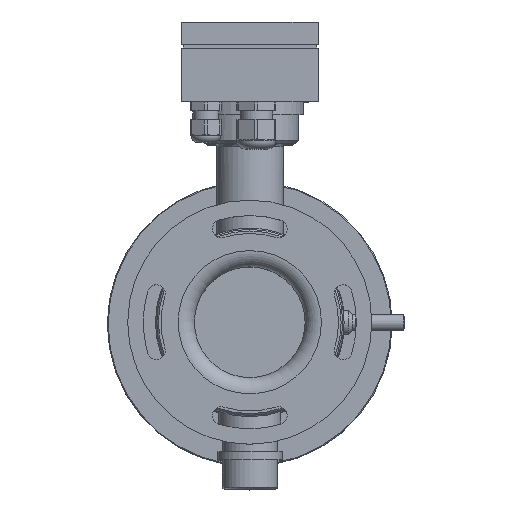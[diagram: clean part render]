
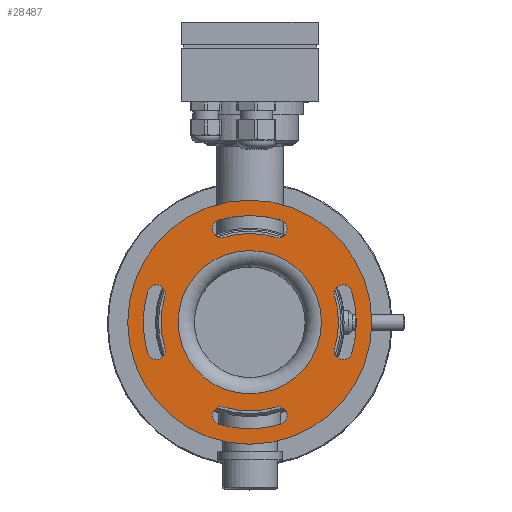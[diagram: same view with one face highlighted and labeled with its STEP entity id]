
A CAD part, top view. The second image highlights one B-rep face of the part: STEP entity #28487.
In plain terms, the highlighted planar face has unit normal (0, 0, 1).
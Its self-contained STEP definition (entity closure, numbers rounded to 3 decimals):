
#1028=FACE_BOUND('',#5299,.T.);
#1029=FACE_BOUND('',#5300,.T.);
#1030=FACE_BOUND('',#5301,.T.);
#1031=FACE_BOUND('',#5302,.T.);
#1032=FACE_BOUND('',#5303,.T.);
#1601=PLANE('',#30087);
#3521=FACE_OUTER_BOUND('',#5298,.T.);
#5298=EDGE_LOOP('',(#25330));
#5299=EDGE_LOOP('',(#25331,#25332,#25333,#25334));
#5300=EDGE_LOOP('',(#25335,#25336,#25337,#25338));
#5301=EDGE_LOOP('',(#25339,#25340,#25341,#25342));
#5302=EDGE_LOOP('',(#25343,#25344,#25345,#25346));
#5303=EDGE_LOOP('',(#25347));
#7527=CIRCLE('',#30054,75.);
#7554=CIRCLE('',#30086,44.);
#7555=CIRCLE('',#30088,5.5);
#7556=CIRCLE('',#30089,65.5);
#7557=CIRCLE('',#30090,5.5);
#7558=CIRCLE('',#30091,54.5);
#7559=CIRCLE('',#30092,5.5);
#7560=CIRCLE('',#30093,65.5);
#7561=CIRCLE('',#30094,5.5);
#7562=CIRCLE('',#30095,54.5);
#7563=CIRCLE('',#30096,5.5);
#7564=CIRCLE('',#30097,65.5);
#7565=CIRCLE('',#30098,5.5);
#7566=CIRCLE('',#30099,54.5);
#7567=CIRCLE('',#30100,5.5);
#7568=CIRCLE('',#30101,65.5);
#7569=CIRCLE('',#30102,5.5);
#7570=CIRCLE('',#30103,54.5);
#13935=VERTEX_POINT('',#61158);
#13960=VERTEX_POINT('',#61217);
#13961=VERTEX_POINT('',#61221);
#13962=VERTEX_POINT('',#61222);
#13963=VERTEX_POINT('',#61224);
#13964=VERTEX_POINT('',#61226);
#13965=VERTEX_POINT('',#61229);
#13966=VERTEX_POINT('',#61230);
#13967=VERTEX_POINT('',#61232);
#13968=VERTEX_POINT('',#61234);
#13969=VERTEX_POINT('',#61237);
#13970=VERTEX_POINT('',#61238);
#13971=VERTEX_POINT('',#61240);
#13972=VERTEX_POINT('',#61242);
#13973=VERTEX_POINT('',#61245);
#13974=VERTEX_POINT('',#61246);
#13975=VERTEX_POINT('',#61248);
#13976=VERTEX_POINT('',#61250);
#17797=EDGE_CURVE('',#13935,#13935,#7527,.T.);
#17827=EDGE_CURVE('',#13960,#13960,#7554,.T.);
#17828=EDGE_CURVE('',#13961,#13962,#7555,.T.);
#17829=EDGE_CURVE('',#13962,#13963,#7556,.T.);
#17830=EDGE_CURVE('',#13963,#13964,#7557,.T.);
#17831=EDGE_CURVE('',#13964,#13961,#7558,.T.);
#17832=EDGE_CURVE('',#13965,#13966,#7559,.T.);
#17833=EDGE_CURVE('',#13966,#13967,#7560,.T.);
#17834=EDGE_CURVE('',#13967,#13968,#7561,.T.);
#17835=EDGE_CURVE('',#13968,#13965,#7562,.T.);
#17836=EDGE_CURVE('',#13969,#13970,#7563,.T.);
#17837=EDGE_CURVE('',#13970,#13971,#7564,.T.);
#17838=EDGE_CURVE('',#13971,#13972,#7565,.T.);
#17839=EDGE_CURVE('',#13972,#13969,#7566,.T.);
#17840=EDGE_CURVE('',#13973,#13974,#7567,.T.);
#17841=EDGE_CURVE('',#13974,#13975,#7568,.T.);
#17842=EDGE_CURVE('',#13975,#13976,#7569,.T.);
#17843=EDGE_CURVE('',#13976,#13973,#7570,.T.);
#25330=ORIENTED_EDGE('',*,*,#17797,.T.);
#25331=ORIENTED_EDGE('',*,*,#17828,.T.);
#25332=ORIENTED_EDGE('',*,*,#17829,.T.);
#25333=ORIENTED_EDGE('',*,*,#17830,.T.);
#25334=ORIENTED_EDGE('',*,*,#17831,.T.);
#25335=ORIENTED_EDGE('',*,*,#17832,.T.);
#25336=ORIENTED_EDGE('',*,*,#17833,.T.);
#25337=ORIENTED_EDGE('',*,*,#17834,.T.);
#25338=ORIENTED_EDGE('',*,*,#17835,.T.);
#25339=ORIENTED_EDGE('',*,*,#17836,.T.);
#25340=ORIENTED_EDGE('',*,*,#17837,.T.);
#25341=ORIENTED_EDGE('',*,*,#17838,.T.);
#25342=ORIENTED_EDGE('',*,*,#17839,.T.);
#25343=ORIENTED_EDGE('',*,*,#17840,.T.);
#25344=ORIENTED_EDGE('',*,*,#17841,.T.);
#25345=ORIENTED_EDGE('',*,*,#17842,.T.);
#25346=ORIENTED_EDGE('',*,*,#17843,.T.);
#25347=ORIENTED_EDGE('',*,*,#17827,.F.);
#28487=ADVANCED_FACE('',(#3521,#1028,#1029,#1030,#1031,#1032),#1601,.T.);
#30054=AXIS2_PLACEMENT_3D('',#61159,#34583,#34584);
#30086=AXIS2_PLACEMENT_3D('',#61219,#34650,#34651);
#30087=AXIS2_PLACEMENT_3D('',#61220,#34652,#34653);
#30088=AXIS2_PLACEMENT_3D('',#61223,#34654,#34655);
#30089=AXIS2_PLACEMENT_3D('',#61225,#34656,#34657);
#30090=AXIS2_PLACEMENT_3D('',#61227,#34658,#34659);
#30091=AXIS2_PLACEMENT_3D('',#61228,#34660,#34661);
#30092=AXIS2_PLACEMENT_3D('',#61231,#34662,#34663);
#30093=AXIS2_PLACEMENT_3D('',#61233,#34664,#34665);
#30094=AXIS2_PLACEMENT_3D('',#61235,#34666,#34667);
#30095=AXIS2_PLACEMENT_3D('',#61236,#34668,#34669);
#30096=AXIS2_PLACEMENT_3D('',#61239,#34670,#34671);
#30097=AXIS2_PLACEMENT_3D('',#61241,#34672,#34673);
#30098=AXIS2_PLACEMENT_3D('',#61243,#34674,#34675);
#30099=AXIS2_PLACEMENT_3D('',#61244,#34676,#34677);
#30100=AXIS2_PLACEMENT_3D('',#61247,#34678,#34679);
#30101=AXIS2_PLACEMENT_3D('',#61249,#34680,#34681);
#30102=AXIS2_PLACEMENT_3D('',#61251,#34682,#34683);
#30103=AXIS2_PLACEMENT_3D('',#61252,#34684,#34685);
#34583=DIRECTION('center_axis',(0.,0.,
1.));
#34584=DIRECTION('ref_axis',(-1.,0.,0.));
#34650=DIRECTION('center_axis',(0.,0.,
1.));
#34651=DIRECTION('ref_axis',(-1.,0.,0.));
#34652=DIRECTION('center_axis',(0.,0.,
1.));
#34653=DIRECTION('ref_axis',(0.,1.,0.));
#34654=DIRECTION('center_axis',(0.,0.,
-1.));
#34655=DIRECTION('ref_axis',(-0.292,0.957,0.));
#34656=DIRECTION('center_axis',(0.,0.,
-1.));
#34657=DIRECTION('ref_axis',(0.292,0.957,0.));
#34658=DIRECTION('center_axis',(0.,0.,
-1.));
#34659=DIRECTION('ref_axis',(-0.292,-0.957,0.));
#34660=DIRECTION('center_axis',(0.,0.,
1.));
#34661=DIRECTION('ref_axis',(-0.292,-0.957,0.));
#34662=DIRECTION('center_axis',(0.,0.,
-1.));
#34663=DIRECTION('ref_axis',(0.292,-0.957,0.));
#34664=DIRECTION('center_axis',(0.,0.,
-1.));
#34665=DIRECTION('ref_axis',(-0.292,-0.957,0.));
#34666=DIRECTION('center_axis',(0.,0.,
-1.));
#34667=DIRECTION('ref_axis',(0.292,0.957,0.));
#34668=DIRECTION('center_axis',(0.,0.,
1.));
#34669=DIRECTION('ref_axis',(0.292,0.957,0.));
#34670=DIRECTION('center_axis',(0.,0.,
-1.));
#34671=DIRECTION('ref_axis',(0.957,0.292,0.));
#34672=DIRECTION('center_axis',(0.,0.,
-1.));
#34673=DIRECTION('ref_axis',(0.957,-0.292,0.));
#34674=DIRECTION('center_axis',(0.,0.,
-1.));
#34675=DIRECTION('ref_axis',(-0.957,0.292,0.));
#34676=DIRECTION('center_axis',(0.,0.,
1.));
#34677=DIRECTION('ref_axis',(-0.957,0.292,0.));
#34678=DIRECTION('center_axis',(0.,0.,
-1.));
#34679=DIRECTION('ref_axis',(-0.957,-0.292,0.));
#34680=DIRECTION('center_axis',(0.,0.,
-1.));
#34681=DIRECTION('ref_axis',(-0.957,0.292,0.));
#34682=DIRECTION('center_axis',(0.,0.,
-1.));
#34683=DIRECTION('ref_axis',(0.957,-0.292,0.));
#34684=DIRECTION('center_axis',(0.,0.,
1.));
#34685=DIRECTION('ref_axis',(0.957,-0.292,0.));
#61158=CARTESIAN_POINT('',(75.,0.,70.2));
#61159=CARTESIAN_POINT('Origin',(0.,0.,
70.2));
#61217=CARTESIAN_POINT('',(0.,-44.,70.2));
#61219=CARTESIAN_POINT('Origin',(0.,0.,
70.2));
#61220=CARTESIAN_POINT('Origin',(-44.,0.,
70.2));
#61221=CARTESIAN_POINT('',(-15.896,52.13,70.2));
#61222=CARTESIAN_POINT('',(-19.104,62.652,70.2));
#61223=CARTESIAN_POINT('Origin',(-17.5,57.391,70.2));
#61224=CARTESIAN_POINT('',(19.104,62.652,70.2));
#61225=CARTESIAN_POINT('Origin',(0.,0.,
70.2));
#61226=CARTESIAN_POINT('',(15.896,52.13,70.2));
#61227=CARTESIAN_POINT('Origin',(17.5,57.391,70.2));
#61228=CARTESIAN_POINT('Origin',(0.,0.,
70.2));
#61229=CARTESIAN_POINT('',(15.896,-52.13,70.2));
#61230=CARTESIAN_POINT('',(19.104,-62.652,70.2));
#61231=CARTESIAN_POINT('Origin',(17.5,-57.391,70.2));
#61232=CARTESIAN_POINT('',(-19.104,-62.652,70.2));
#61233=CARTESIAN_POINT('Origin',(0.,0.,
70.2));
#61234=CARTESIAN_POINT('',(-15.896,-52.13,70.2));
#61235=CARTESIAN_POINT('Origin',(-17.5,-57.391,70.2));
#61236=CARTESIAN_POINT('Origin',(0.,0.,
70.2));
#61237=CARTESIAN_POINT('',(52.13,15.896,70.2));
#61238=CARTESIAN_POINT('',(62.652,19.104,70.2));
#61239=CARTESIAN_POINT('Origin',(57.391,17.5,70.2));
#61240=CARTESIAN_POINT('',(62.652,-19.104,70.2));
#61241=CARTESIAN_POINT('Origin',(0.,0.,
70.2));
#61242=CARTESIAN_POINT('',(52.13,-15.896,70.2));
#61243=CARTESIAN_POINT('Origin',(57.391,-17.5,70.2));
#61244=CARTESIAN_POINT('Origin',(0.,0.,
70.2));
#61245=CARTESIAN_POINT('',(-52.13,-15.896,70.2));
#61246=CARTESIAN_POINT('',(-62.652,-19.104,70.2));
#61247=CARTESIAN_POINT('Origin',(-57.391,-17.5,70.2));
#61248=CARTESIAN_POINT('',(-62.652,19.104,70.2));
#61249=CARTESIAN_POINT('Origin',(0.,0.,
70.2));
#61250=CARTESIAN_POINT('',(-52.13,15.896,70.2));
#61251=CARTESIAN_POINT('Origin',(-57.391,17.5,70.2));
#61252=CARTESIAN_POINT('Origin',(0.,0.,
70.2));
